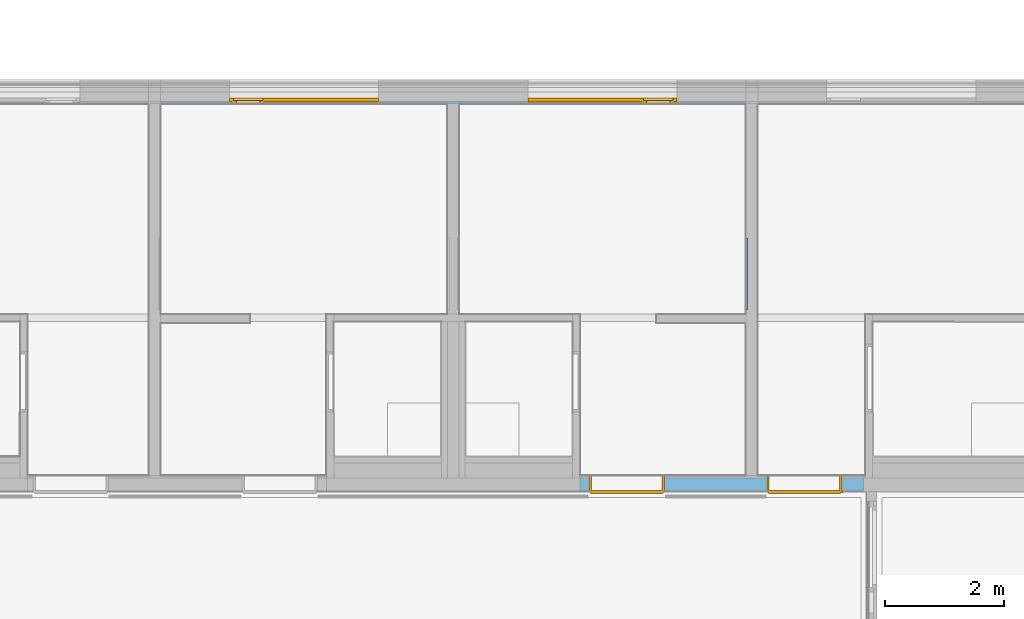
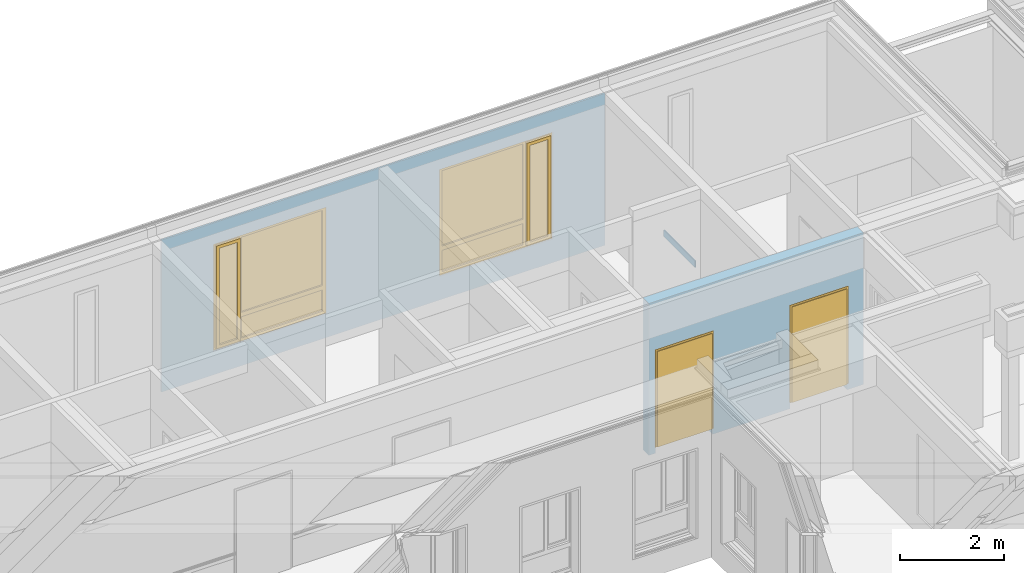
# One storey, part 104 of 222: 2 doors, 2 windows, 1 wall, 4 openings, plus 2 elements that do not belong to this part.
"""IFC4 building model written with IfcOpenShell, lengths in metres."""

from ifc_helpers import new_model, entity, si_unit, converted_unit, derived_unit, frame, frame_2d, origin, origin_with_axes, place, context, subcontext, project, spatial, polyline, rectangle, outline, extrude, closed_shell, open_shell, faceted_brep, surface_model, source, transform, mapped, material, type_object, element, fill, save


model = new_model("IFC4")

# Units and contexts
model_context = context("Model", 3, precision=1e-05, world=origin())
body_context = subcontext(model_context, "Body", "Model", "MODEL_VIEW")
ifc_project = project(units=[si_unit("LENGTHUNIT", "METRE"), si_unit("AREAUNIT", "SQUARE_METRE"), si_unit("VOLUMEUNIT", "CUBIC_METRE"), si_unit("MASSUNIT", "GRAM", prefix="KILO"), converted_unit("PLANEANGLEUNIT", "DEGREE", entity("IfcPlaneAngleMeasure", 0.0174532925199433), si_unit("PLANEANGLEUNIT", "RADIAN"), dimensions=[0, 0, 0, 0, 0, 0, 0]), derived_unit("THERMALTRANSMITTANCEUNIT", [(si_unit("POWERUNIT", "WATT"), 1), (si_unit("THERMODYNAMICTEMPERATUREUNIT", "KELVIN"), -1), (si_unit("LENGTHUNIT", "METRE"), -2)]), derived_unit("VOLUMETRICFLOWRATEUNIT", [(si_unit("LENGTHUNIT", "METRE"), 3), (converted_unit("TIMEUNIT", "hour", entity("IfcTimeMeasure", 3600.0), si_unit("TIMEUNIT", "SECOND"), dimensions=[0, 0, 1, 0, 0, 0, 0]), -1), (si_unit("LENGTHUNIT", "METRE"), -1)])], contexts=[model_context])

# Site, building, storey
site_placement = place(None, origin())
site = spatial("IfcSite", under=ifc_project, at=site_placement, Name="Psychiatrie Neubau Wunstorf", CompositionType="ELEMENT")
building_placement = place(site_placement, origin())
building = spatial("IfcBuilding", under=site, at=building_placement, Name="Neubau H2 Stationsgebäude", CompositionType="ELEMENT")
storey_placement = place(building_placement, frame((0.0, 0.0, 3.6)))
storey = spatial("IfcBuildingStorey", under=building, at=storey_placement, Name="H2 Ebene +1", CompositionType="ELEMENT", Elevation=3.6)

# Wall, openings, windows
ifc_material_1 = material(Name="WA-LB")
wall_1_placement = place(storey_placement, frame((20.1, 30.614, 0.0), z_axis=(0.0, 0.0, 1.0), x_axis=(1.0, -7.42444654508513e-16, 0.0)))
wall_1 = element("IfcWall", 1, at=wall_1_placement, inside=storey, material=ifc_material_1, context=body_context, shape_type="SweptSolid", body=[
    extrude(rectangle(XDim=9.8, YDim=0.036, at=frame_2d((4.9, 0.018), x_axis=(1.0, 0.0))), origin_with_axes(), (0.0, 0.0, 1.0), 3.55),
])
opening_1_placement = place(wall_1_placement, frame((1.15, 0.0, 0.55), z_axis=(0.0, 1.0, 0.0), x_axis=(0.0, 0.0, 1.0)))
opening_1 = element("IfcOpeningElement", 2, at=opening_1_placement, cuts=wall_1, Name="Fensteröffnung", ObjectType="Opening", context=body_context, shape_type="SweptSolid", body=[
    extrude(outline(polyline([(2.5, 2.5), (2.5, 0.0), (0.0, 0.0), (0.0, 2.5), (2.5, 2.5)])), origin_with_axes(), (0.0, 0.0, 1.0), 0.036),
])
opening_2_placement = place(wall_1_placement, frame((6.15, 0.0, 0.55), z_axis=(0.0, 1.0, 0.0), x_axis=(0.0, 0.0, 1.0)))
opening_2 = element("IfcOpeningElement", 3, at=opening_2_placement, cuts=wall_1, Name="Fensteröffnung", ObjectType="Opening", context=body_context, shape_type="SweptSolid", body=[
    extrude(outline(polyline([(2.5, 2.5), (2.5, 0.0), (0.0, 0.0), (0.0, 2.5), (2.5, 2.5)])), origin_with_axes(), (0.0, 0.0, 1.0), 0.036),
])
shared_shape_1 = source(origin_with_axes(), body_context, "Body", "SurfaceModel", [
    surface_model("IfcShellBasedSurfaceModel", [(0.0, 0.0, 2.5), (0.07, 0.0, 2.5), (0.07, 0.0, 0.0), (0.0, 0.0, 0.0), (0.0, 0.0699999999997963, 0.0), (0.07, 0.0699999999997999, 0.0), (0.07, 0.0699999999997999, 2.5), (0.0, 0.0699999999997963, 2.5)], [closed_shell([[[0, 1, 2, 3]], [[4, 5, 6, 7]], [[3, 4, 7, 0]], [[2, 5, 4, 3]], [[1, 6, 5, 2]], [[0, 7, 6, 1]]], orient=[[False], [False], [False], [False], [False], [False]])]),
    surface_model("IfcShellBasedSurfaceModel", [(2.43, 0.0, 2.5), (2.5, 0.0, 2.5), (2.5, 0.0, 0.0), (2.43, 0.0, 0.0), (2.43, 0.0699999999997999, 0.0), (2.5, 0.0699999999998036, 0.0), (2.5, 0.0699999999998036, 2.5), (2.43, 0.0699999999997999, 2.5)], [closed_shell([[[0, 1, 2, 3]], [[4, 5, 6, 7]], [[3, 4, 7, 0]], [[2, 5, 4, 3]], [[1, 6, 5, 2]], [[0, 7, 6, 1]]], orient=[[False], [False], [False], [False], [False], [False]])]),
    surface_model("IfcShellBasedSurfaceModel", [(0.07, 0.0, 0.07), (2.43, 0.0, 0.07), (2.43, 0.0, 0.0), (0.07, 0.0, 0.0), (0.07, 0.0699999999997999, 0.0), (2.43, 0.0699999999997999, 0.0), (2.43, 0.0699999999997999, 0.07), (0.07, 0.0699999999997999, 0.07)], [closed_shell([[[0, 1, 2, 3]], [[4, 5, 6, 7]], [[3, 4, 7, 0]], [[2, 5, 4, 3]], [[1, 6, 5, 2]], [[0, 7, 6, 1]]], orient=[[False], [False], [False], [False], [False], [False]])]),
    surface_model("IfcShellBasedSurfaceModel", [(0.07, 0.0, 2.5), (2.43, 0.0, 2.5), (2.43, 0.0, 2.43), (0.07, 0.0, 2.43), (0.07, 0.0699999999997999, 2.43), (2.43, 0.0699999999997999, 2.43), (2.43, 0.0699999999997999, 2.5), (0.07, 0.0699999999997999, 2.5)], [closed_shell([[[0, 1, 2, 3]], [[4, 5, 6, 7]], [[3, 4, 7, 0]], [[2, 5, 4, 3]], [[1, 6, 5, 2]], [[0, 7, 6, 1]]], orient=[[False], [False], [False], [False], [False], [False]])]),
    surface_model("IfcShellBasedSurfaceModel", [(0.565714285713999, 0.0, 2.43), (0.635714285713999, 0.0, 2.43), (0.635714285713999, 0.0, 0.07), (0.565714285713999, 0.0, 0.07), (0.565714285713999, 0.0699999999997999, 0.07), (0.635714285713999, 0.0699999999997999, 0.07), (0.635714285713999, 0.0699999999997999, 2.43), (0.565714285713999, 0.0699999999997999, 2.43)], [closed_shell([[[0, 1, 2, 3]], [[4, 5, 6, 7]], [[3, 4, 7, 0]], [[2, 5, 4, 3]], [[1, 6, 5, 2]], [[0, 7, 6, 1]]], orient=[[False], [False], [False], [False], [False], [False]])]),
    surface_model("IfcShellBasedSurfaceModel", [(0.05, -0.05, 2.45), (0.12, -0.05, 2.45), (0.12, -0.05, 0.05), (0.05, -0.05, 0.05), (0.05, 0.0199999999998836, 0.05), (0.12, 0.0199999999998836, 0.05), (0.12, 0.0199999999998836, 2.45), (0.05, 0.0199999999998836, 2.45)], [closed_shell([[[0, 1, 2, 3]], [[4, 5, 6, 7]], [[3, 4, 7, 0]], [[2, 5, 4, 3]], [[1, 6, 5, 2]], [[0, 7, 6, 1]]], orient=[[False], [False], [False], [False], [False], [False]])]),
    surface_model("IfcShellBasedSurfaceModel", [(0.515714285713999, -0.05, 2.45), (0.585714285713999, -0.05, 2.45), (0.585714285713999, -0.05, 0.05), (0.515714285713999, -0.05, 0.05), (0.515714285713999, 0.0199999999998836, 0.05), (0.585714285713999, 0.0199999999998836, 0.05), (0.585714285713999, 0.0199999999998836, 2.45), (0.515714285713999, 0.0199999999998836, 2.45)], [closed_shell([[[0, 1, 2, 3]], [[4, 5, 6, 7]], [[3, 4, 7, 0]], [[2, 5, 4, 3]], [[1, 6, 5, 2]], [[0, 7, 6, 1]]], orient=[[False], [False], [False], [False], [False], [False]])]),
    surface_model("IfcShellBasedSurfaceModel", [(0.12, -0.05, 0.12), (0.515714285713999, -0.05, 0.12), (0.515714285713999, -0.05, 0.05), (0.12, -0.05, 0.05), (0.12, 0.0199999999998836, 0.05), (0.515714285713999, 0.0199999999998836, 0.05), (0.515714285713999, 0.0199999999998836, 0.12), (0.12, 0.0199999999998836, 0.12)], [closed_shell([[[0, 1, 2, 3]], [[4, 5, 6, 7]], [[3, 4, 7, 0]], [[2, 5, 4, 3]], [[1, 6, 5, 2]], [[0, 7, 6, 1]]], orient=[[False], [False], [False], [False], [False], [False]])]),
    surface_model("IfcShellBasedSurfaceModel", [(0.12, -0.05, 2.45), (0.515714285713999, -0.05, 2.45), (0.515714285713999, -0.05, 2.38), (0.12, -0.05, 2.38), (0.12, 0.0199999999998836, 2.38), (0.515714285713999, 0.0199999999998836, 2.38), (0.515714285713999, 0.0199999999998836, 2.45), (0.12, 0.0199999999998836, 2.45)], [closed_shell([[[0, 1, 2, 3]], [[4, 5, 6, 7]], [[3, 4, 7, 0]], [[2, 5, 4, 3]], [[1, 6, 5, 2]], [[0, 7, 6, 1]]], orient=[[False], [False], [False], [False], [False], [False]])]),
    surface_model("IfcShellBasedSurfaceModel", [(0.635714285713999, 0.0, 0.67), (2.43, 0.0, 0.67), (2.43, 0.0, 0.57), (0.635714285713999, 0.0, 0.57), (0.635714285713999, 0.0699999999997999, 0.57), (2.43, 0.0699999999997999, 0.57), (2.43, 0.0699999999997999, 0.67), (0.635714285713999, 0.0699999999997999, 0.67)], [closed_shell([[[0, 1, 2, 3]], [[4, 5, 6, 7]], [[3, 4, 7, 0]], [[2, 5, 4, 3]], [[1, 6, 5, 2]], [[0, 7, 6, 1]]], orient=[[False], [False], [False], [False], [False], [False]])]),
    surface_model("IfcShellBasedSurfaceModel", [(0.12, -0.0150000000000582, 0.12), (0.12, -0.0150000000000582, 2.38), (0.515714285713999, -0.0150000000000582, 2.38), (0.515714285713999, -0.0150000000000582, 0.12)], [open_shell([[[0, 1, 2, 3]]], orient=[[False]])]),
    surface_model("IfcShellBasedSurfaceModel", [(0.635714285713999, 0.0349999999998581, 0.07), (0.635714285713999, 0.0349999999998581, 0.57), (2.43, 0.0349999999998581, 0.57), (2.43, 0.0349999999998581, 0.07)], [open_shell([[[0, 1, 2, 3]]], orient=[[False]])]),
    surface_model("IfcShellBasedSurfaceModel", [(0.635714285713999, 0.0349999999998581, 0.67), (0.635714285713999, 0.0349999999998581, 2.43), (2.43, 0.0349999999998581, 2.43), (2.43, 0.0349999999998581, 0.67)], [open_shell([[[0, 1, 2, 3]]], orient=[[False]])]),
])
window_1_placement = place(opening_1_placement, frame((0.0, 0.0, 0.03), z_axis=(1.0, 0.0, 0.0), x_axis=(0.0, 1.0, -7.12746868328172e-16)))
window_1 = element("IfcWindow", 4, at=window_1_placement, inside=storey, Name="Fenster", OverallHeight=2.5, OverallWidth=2.5, PartitioningType="USERDEFINED", PredefinedType="WINDOW", context=body_context, shape_type="MappedRepresentation", body=[
    mapped(shared_shape_1, transform((0.0, 0.0, 0.0), x_axis=(1.0, 0.0, 0.0), y_axis=(0.0, 1.0, 0.0), z_axis=(0.0, 0.0, 1.0), scale=1.0)),
])
fill(opening_1, window_1)
shared_shape_2 = source(origin_with_axes(), body_context, "Body", "SurfaceModel", [
    surface_model("IfcShellBasedSurfaceModel", [(2.5, 0.0, 2.5), (2.5, 0.0, 0.0), (2.43, 0.0, 0.0), (2.43, 0.0, 2.5), (2.5, 0.0699999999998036, 0.0), (2.5, 0.0699999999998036, 2.5), (2.43, 0.0699999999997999, 2.5), (2.43, 0.0699999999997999, 0.0)], [closed_shell([[[0, 1, 2, 3]], [[4, 5, 6, 7]], [[1, 0, 5, 4]], [[2, 1, 4, 7]], [[3, 2, 7, 6]], [[0, 3, 6, 5]]], orient=[[False], [False], [False], [False], [False], [False]])]),
    surface_model("IfcShellBasedSurfaceModel", [(0.07, 0.0, 2.5), (0.07, 0.0, 0.0), (0.0, 0.0, 0.0), (0.0, 0.0, 2.5), (0.07, 0.0699999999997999, 0.0), (0.07, 0.0699999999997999, 2.5), (0.0, 0.0699999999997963, 2.5), (0.0, 0.0699999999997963, 0.0)], [closed_shell([[[0, 1, 2, 3]], [[4, 5, 6, 7]], [[1, 0, 5, 4]], [[2, 1, 4, 7]], [[3, 2, 7, 6]], [[0, 3, 6, 5]]], orient=[[False], [False], [False], [False], [False], [False]])]),
    surface_model("IfcShellBasedSurfaceModel", [(2.43, 0.0, 0.07), (2.43, 0.0, 0.0), (0.07, 0.0, 0.0), (0.07, 0.0, 0.07), (2.43, 0.0699999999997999, 0.0), (2.43, 0.0699999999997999, 0.07), (0.07, 0.0699999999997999, 0.07), (0.07, 0.0699999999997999, 0.0)], [closed_shell([[[0, 1, 2, 3]], [[4, 5, 6, 7]], [[1, 0, 5, 4]], [[2, 1, 4, 7]], [[3, 2, 7, 6]], [[0, 3, 6, 5]]], orient=[[False], [False], [False], [False], [False], [False]])]),
    surface_model("IfcShellBasedSurfaceModel", [(2.43, 0.0, 2.5), (2.43, 0.0, 2.43), (0.07, 0.0, 2.43), (0.07, 0.0, 2.5), (2.43, 0.0699999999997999, 2.43), (2.43, 0.0699999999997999, 2.5), (0.07, 0.0699999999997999, 2.5), (0.07, 0.0699999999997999, 2.43)], [closed_shell([[[0, 1, 2, 3]], [[4, 5, 6, 7]], [[1, 0, 5, 4]], [[2, 1, 4, 7]], [[3, 2, 7, 6]], [[0, 3, 6, 5]]], orient=[[False], [False], [False], [False], [False], [False]])]),
    surface_model("IfcShellBasedSurfaceModel", [(1.934285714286, 0.0, 2.43), (1.934285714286, 0.0, 0.07), (1.864285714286, 0.0, 0.07), (1.864285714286, 0.0, 2.43), (1.934285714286, 0.0699999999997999, 0.07), (1.934285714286, 0.0699999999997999, 2.43), (1.864285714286, 0.0699999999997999, 2.43), (1.864285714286, 0.0699999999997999, 0.07)], [closed_shell([[[0, 1, 2, 3]], [[4, 5, 6, 7]], [[1, 0, 5, 4]], [[2, 1, 4, 7]], [[3, 2, 7, 6]], [[0, 3, 6, 5]]], orient=[[False], [False], [False], [False], [False], [False]])]),
    surface_model("IfcShellBasedSurfaceModel", [(2.45, -0.0500000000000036, 2.45), (2.45, -0.0500000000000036, 0.05), (2.38, -0.0500000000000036, 0.05), (2.38, -0.0500000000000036, 2.45), (2.45, 0.0199999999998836, 0.05), (2.45, 0.0199999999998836, 2.45), (2.38, 0.0199999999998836, 2.45), (2.38, 0.0199999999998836, 0.05)], [closed_shell([[[0, 1, 2, 3]], [[4, 5, 6, 7]], [[1, 0, 5, 4]], [[2, 1, 4, 7]], [[3, 2, 7, 6]], [[0, 3, 6, 5]]], orient=[[False], [False], [False], [False], [False], [False]])]),
    surface_model("IfcShellBasedSurfaceModel", [(1.984285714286, -0.0500000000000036, 2.45), (1.984285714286, -0.0500000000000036, 0.05), (1.914285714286, -0.0500000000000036, 0.05), (1.914285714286, -0.0500000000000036, 2.45), (1.984285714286, 0.0199999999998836, 0.05), (1.984285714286, 0.0199999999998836, 2.45), (1.914285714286, 0.0199999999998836, 2.45), (1.914285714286, 0.0199999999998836, 0.05)], [closed_shell([[[0, 1, 2, 3]], [[4, 5, 6, 7]], [[1, 0, 5, 4]], [[2, 1, 4, 7]], [[3, 2, 7, 6]], [[0, 3, 6, 5]]], orient=[[False], [False], [False], [False], [False], [False]])]),
    surface_model("IfcShellBasedSurfaceModel", [(2.38, -0.0500000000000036, 0.12), (2.38, -0.0500000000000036, 0.05), (1.984285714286, -0.0500000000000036, 0.05), (1.984285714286, -0.0500000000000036, 0.12), (2.38, 0.0199999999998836, 0.05), (2.38, 0.0199999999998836, 0.12), (1.984285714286, 0.0199999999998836, 0.12), (1.984285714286, 0.0199999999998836, 0.05)], [closed_shell([[[0, 1, 2, 3]], [[4, 5, 6, 7]], [[1, 0, 5, 4]], [[2, 1, 4, 7]], [[3, 2, 7, 6]], [[0, 3, 6, 5]]], orient=[[False], [False], [False], [False], [False], [False]])]),
    surface_model("IfcShellBasedSurfaceModel", [(2.38, -0.0500000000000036, 2.45), (2.38, -0.0500000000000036, 2.38), (1.984285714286, -0.0500000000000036, 2.38), (1.984285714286, -0.0500000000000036, 2.45), (2.38, 0.0199999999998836, 2.38), (2.38, 0.0199999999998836, 2.45), (1.984285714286, 0.0199999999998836, 2.45), (1.984285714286, 0.0199999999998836, 2.38)], [closed_shell([[[0, 1, 2, 3]], [[4, 5, 6, 7]], [[1, 0, 5, 4]], [[2, 1, 4, 7]], [[3, 2, 7, 6]], [[0, 3, 6, 5]]], orient=[[False], [False], [False], [False], [False], [False]])]),
    surface_model("IfcShellBasedSurfaceModel", [(1.864285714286, 0.0, 0.67), (1.864285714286, 0.0, 0.57), (0.07, 0.0, 0.57), (0.07, 0.0, 0.67), (1.864285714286, 0.0699999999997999, 0.57), (1.864285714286, 0.0699999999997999, 0.67), (0.07, 0.0699999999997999, 0.67), (0.07, 0.0699999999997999, 0.57)], [closed_shell([[[0, 1, 2, 3]], [[4, 5, 6, 7]], [[1, 0, 5, 4]], [[2, 1, 4, 7]], [[3, 2, 7, 6]], [[0, 3, 6, 5]]], orient=[[False], [False], [False], [False], [False], [False]])]),
    surface_model("IfcShellBasedSurfaceModel", [(2.38, -0.0150000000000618, 0.12), (1.984285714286, -0.0150000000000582, 0.12), (1.984285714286, -0.0150000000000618, 2.38), (2.38, -0.0150000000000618, 2.38)], [open_shell([[[0, 1, 2, 3]]], orient=[[False]])]),
    surface_model("IfcShellBasedSurfaceModel", [(1.864285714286, 0.0349999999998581, 0.07), (0.07, 0.0349999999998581, 0.07), (0.07, 0.0349999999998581, 0.57), (1.864285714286, 0.0349999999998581, 0.57)], [open_shell([[[0, 1, 2, 3]]], orient=[[False]])]),
    surface_model("IfcShellBasedSurfaceModel", [(1.864285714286, 0.0349999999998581, 0.67), (0.07, 0.0349999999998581, 0.67), (0.07, 0.0349999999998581, 2.43), (1.864285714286, 0.0349999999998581, 2.43)], [open_shell([[[0, 1, 2, 3]]], orient=[[False]])]),
])
window_2_placement = place(opening_2_placement, frame((0.0, 0.0, 0.03), z_axis=(1.0, 0.0, 0.0), x_axis=(0.0, 1.0, -7.12746868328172e-16)))
window_2 = element("IfcWindow", 5, at=window_2_placement, inside=storey, Name="Fenster", OverallHeight=2.5, OverallWidth=2.5, PartitioningType="USERDEFINED", PredefinedType="WINDOW", context=body_context, shape_type="MappedRepresentation", body=[
    mapped(shared_shape_2, transform((0.0, 0.0, 0.0), x_axis=(1.0, 0.0, 0.0), y_axis=(0.0, 1.0, 0.0), z_axis=(0.0, 0.0, 1.0), scale=1.0)),
])
fill(opening_2, window_2)

# Wall, openings, doors
ifc_material_2 = material(Name="WI-HW 60")
wall_2_placement = place(storey_placement, frame((27.125, 24.1175, 0.0)))
wall_2 = element("IfcWall", 6, at=wall_2_placement, inside=storey, material=ifc_material_2, context=body_context, shape_type="SweptSolid", body=[
    extrude(rectangle(XDim=4.743, YDim=0.232, at=frame_2d((2.3715, 0.116), x_axis=(1.0, 0.0))), origin_with_axes(), (0.0, 0.0, 1.0), 3.55),
])
opening_3_placement = place(wall_2_placement, frame((3.125, 0.0, 0.0), z_axis=(0.0, 1.0, 0.0), x_axis=(0.0, 0.0, 1.0)))
opening_3 = element("IfcOpeningElement", 7, at=opening_3_placement, cuts=wall_2, Name="Türöffnung", ObjectType="Opening", context=body_context, shape_type="SweptSolid", body=[
    extrude(outline(polyline([(2.41, 1.26), (2.41, 0.0), (0.0, 0.0), (0.0, 1.26), (2.41, 1.26)])), origin_with_axes(), (0.0, 0.0, 1.0), 0.232),
])
opening_4_placement = place(wall_2_placement, frame((0.15, 0.0, 0.0), z_axis=(0.0, 1.0, 0.0), x_axis=(0.0, 0.0, 1.0)))
opening_4 = element("IfcOpeningElement", 8, at=opening_4_placement, cuts=wall_2, Name="Türöffnung", ObjectType="Opening", context=body_context, shape_type="SweptSolid", body=[
    extrude(outline(polyline([(2.41, 1.26), (2.41, 0.0), (0.0, 0.0), (0.0, 1.26), (2.41, 1.26)])), origin_with_axes(), (0.0, 0.0, 1.0), 0.232),
])
ifc_material_3 = material(Name="TI-2F-UZ-D")
door_type_1 = type_object("IfcDoorType", Name="SMT", OperationType="DOUBLE_DOOR_SINGLE_SWING", ParameterTakesPrecedence=False, PredefinedType="DOOR")
shared_shape_3 = source(origin_with_axes(), body_context, "Body", "Brep", [
    faceted_brep([(1.26, -0.0150000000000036, 2.41), (1.26, -0.0150000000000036, 0.15), (1.22, -0.0150000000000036, 0.15), (1.22, -0.0150000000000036, 2.41), (1.26, 0.286999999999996, 0.15), (1.26, 0.286999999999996, 2.41), (1.22, 0.286999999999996, 2.41), (1.22, 0.286999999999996, 0.15)], [[[0, 1, 2, 3]], [[4, 5, 6, 7]], [[1, 0, 5, 4]], [[2, 1, 4, 7]], [[3, 2, 7, 6]], [[0, 3, 6, 5]]], orient=[[False], [False], [False], [False], [False], [False]]),
    faceted_brep([(1.26, -0.0150000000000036, 2.425), (1.275, -0.0150000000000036, 2.425), (1.275, -0.0150000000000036, 0.15), (1.26, -0.0150000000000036, 0.15), (1.26, 0.0, 0.15), (1.275, 0.0, 0.15), (1.275, 0.0, 2.425), (1.26, 0.0, 2.425)], [[[0, 1, 2, 3]], [[4, 5, 6, 7]], [[3, 4, 7, 0]], [[2, 5, 4, 3]], [[1, 6, 5, 2]], [[0, 7, 6, 1]]], orient=[[False], [False], [False], [False], [False], [False]]),
    faceted_brep([(1.26, 0.271999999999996, 2.425), (1.275, 0.271999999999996, 2.425), (1.275, 0.271999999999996, 0.15), (1.26, 0.271999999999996, 0.15), (1.26, 0.286999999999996, 0.15), (1.275, 0.286999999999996, 0.15), (1.275, 0.286999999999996, 2.425), (1.26, 0.286999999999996, 2.425)], [[[0, 1, 2, 3]], [[4, 5, 6, 7]], [[3, 4, 7, 0]], [[2, 5, 4, 3]], [[1, 6, 5, 2]], [[0, 7, 6, 1]]], orient=[[False], [False], [False], [False], [False], [False]]),
    faceted_brep([(0.04, -0.0150000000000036, 2.41), (0.04, -0.0150000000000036, 0.15), (0.0, -0.0150000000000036, 0.15), (0.0, -0.0150000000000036, 2.41), (0.04, 0.286999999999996, 0.15), (0.04, 0.286999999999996, 2.41), (0.0, 0.286999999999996, 2.41), (0.0, 0.286999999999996, 0.15)], [[[0, 1, 2, 3]], [[4, 5, 6, 7]], [[1, 0, 5, 4]], [[2, 1, 4, 7]], [[3, 2, 7, 6]], [[0, 3, 6, 5]]], orient=[[False], [False], [False], [False], [False], [False]]),
    faceted_brep([(0.0, -0.0150000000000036, 2.425), (0.0, -0.0150000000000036, 0.15), (-0.015, -0.0150000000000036, 0.15), (-0.015, -0.0150000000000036, 2.425), (0.0, 0.0, 0.15), (0.0, 0.0, 2.425), (-0.015, 0.0, 2.425), (-0.015, 0.0, 0.15)], [[[0, 1, 2, 3]], [[4, 5, 6, 7]], [[1, 0, 5, 4]], [[2, 1, 4, 7]], [[3, 2, 7, 6]], [[0, 3, 6, 5]]], orient=[[False], [False], [False], [False], [False], [False]]),
    faceted_brep([(0.0, 0.271999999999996, 2.425), (0.0, 0.271999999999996, 0.15), (-0.015, 0.271999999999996, 0.15), (-0.015, 0.271999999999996, 2.425), (0.0, 0.286999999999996, 0.15), (0.0, 0.286999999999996, 2.425), (-0.015, 0.286999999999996, 2.425), (-0.015, 0.286999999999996, 0.15)], [[[0, 1, 2, 3]], [[4, 5, 6, 7]], [[1, 0, 5, 4]], [[2, 1, 4, 7]], [[3, 2, 7, 6]], [[0, 3, 6, 5]]], orient=[[False], [False], [False], [False], [False], [False]]),
    faceted_brep([(1.22, -0.0150000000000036, 2.41), (1.22, -0.0150000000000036, 2.37), (0.04, -0.0150000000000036, 2.37), (0.04, -0.0150000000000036, 2.41), (1.22, 0.286999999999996, 2.37), (1.22, 0.286999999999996, 2.41), (0.04, 0.286999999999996, 2.41), (0.04, 0.286999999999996, 2.37)], [[[0, 1, 2, 3]], [[4, 5, 6, 7]], [[1, 0, 5, 4]], [[2, 1, 4, 7]], [[3, 2, 7, 6]], [[0, 3, 6, 5]]], orient=[[False], [False], [False], [False], [False], [False]]),
    faceted_brep([(1.26, -0.0150000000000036, 2.425), (1.26, -0.0150000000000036, 2.41), (0.0, -0.0150000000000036, 2.41), (0.0, -0.0150000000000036, 2.425), (1.26, 0.0, 2.41), (1.26, 0.0, 2.425), (0.0, 0.0, 2.425), (0.0, 0.0, 2.41)], [[[0, 1, 2, 3]], [[4, 5, 6, 7]], [[1, 0, 5, 4]], [[2, 1, 4, 7]], [[3, 2, 7, 6]], [[0, 3, 6, 5]]], orient=[[False], [False], [False], [False], [False], [False]]),
    faceted_brep([(1.26, 0.271999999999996, 2.425), (1.26, 0.271999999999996, 2.41), (0.0, 0.271999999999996, 2.41), (0.0, 0.271999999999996, 2.425), (1.26, 0.286999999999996, 2.41), (1.26, 0.286999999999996, 2.425), (0.0, 0.286999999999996, 2.425), (0.0, 0.286999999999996, 2.41)], [[[0, 1, 2, 3]], [[4, 5, 6, 7]], [[1, 0, 5, 4]], [[2, 1, 4, 7]], [[3, 2, 7, 6]], [[0, 3, 6, 5]]], orient=[[False], [False], [False], [False], [False], [False]]),
    faceted_brep([(1.235, 0.251999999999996, 2.385), (1.235, 0.251999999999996, 0.15), (0.335, 0.251999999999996, 0.15), (0.335, 0.251999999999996, 2.385), (1.235, 0.301999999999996, 0.15), (1.235, 0.301999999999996, 2.385), (0.335, 0.301999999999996, 2.385), (0.335, 0.301999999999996, 0.15)], [[[0, 1, 2, 3]], [[4, 5, 6, 7]], [[1, 0, 5, 4]], [[2, 1, 4, 7]], [[3, 2, 7, 6]], [[0, 3, 6, 5]]], orient=[[False], [False], [False], [False], [False], [False]]),
    faceted_brep([(0.334, 0.251999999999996, 2.385), (0.334, 0.251999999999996, 0.15), (0.025, 0.251999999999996, 0.15), (0.025, 0.251999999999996, 2.385), (0.334, 0.301999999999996, 0.15), (0.334, 0.301999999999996, 2.385), (0.025, 0.301999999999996, 2.385), (0.025, 0.301999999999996, 0.15)], [[[0, 1, 2, 3]], [[4, 5, 6, 7]], [[1, 0, 5, 4]], [[2, 1, 4, 7]], [[3, 2, 7, 6]], [[0, 3, 6, 5]]], orient=[[False], [False], [False], [False], [False], [False]]),
])
door_1_placement = place(opening_3_placement, frame((0.0, 1.26, 0.271999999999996), z_axis=(1.0, 0.0, 0.0), x_axis=(0.0, -1.0, 0.0)))
door_1 = element("IfcDoor", 9, at=door_1_placement, inside=storey, type_object=door_type_1, material=ifc_material_3, Name="SMT", OverallHeight=2.41, OverallWidth=1.26, context=body_context, shape_type="MappedRepresentation", body=[
    mapped(shared_shape_3, transform((0.0, 0.0, 0.0), x_axis=(1.0, 0.0, 0.0), y_axis=(0.0, 1.0, 0.0), z_axis=(0.0, 0.0, 1.0), scale=1.0)),
])
fill(opening_3, door_1)
ifc_material_4 = material(Name="TI-2F-UZ-D")
door_type_2 = type_object("IfcDoorType", Name="SMT", OperationType="DOUBLE_DOOR_SINGLE_SWING", ParameterTakesPrecedence=False, PredefinedType="DOOR")
shared_shape_4 = source(origin_with_axes(), body_context, "Body", "Brep", [
    faceted_brep([(0.0, -0.0150000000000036, 2.41), (0.04, -0.0150000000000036, 2.41), (0.04, -0.0150000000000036, 0.15), (0.0, -0.0150000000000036, 0.15), (0.0, 0.286999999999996, 0.15), (0.04, 0.286999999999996, 0.15), (0.04, 0.286999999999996, 2.41), (0.0, 0.286999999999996, 2.41)], [[[0, 1, 2, 3]], [[4, 5, 6, 7]], [[3, 4, 7, 0]], [[2, 5, 4, 3]], [[1, 6, 5, 2]], [[0, 7, 6, 1]]], orient=[[False], [False], [False], [False], [False], [False]]),
    faceted_brep([(0.0, -0.0150000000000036, 2.425), (0.0, -0.0150000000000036, 0.15), (-0.015, -0.0150000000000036, 0.15), (-0.015, -0.0150000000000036, 2.425), (0.0, 0.0, 0.15), (0.0, 0.0, 2.425), (-0.015, 0.0, 2.425), (-0.015, 0.0, 0.15)], [[[0, 1, 2, 3]], [[4, 5, 6, 7]], [[1, 0, 5, 4]], [[2, 1, 4, 7]], [[3, 2, 7, 6]], [[0, 3, 6, 5]]], orient=[[False], [False], [False], [False], [False], [False]]),
    faceted_brep([(0.0, 0.271999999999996, 2.425), (0.0, 0.271999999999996, 0.15), (-0.015, 0.271999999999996, 0.15), (-0.015, 0.271999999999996, 2.425), (0.0, 0.286999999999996, 0.15), (0.0, 0.286999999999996, 2.425), (-0.015, 0.286999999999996, 2.425), (-0.015, 0.286999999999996, 0.15)], [[[0, 1, 2, 3]], [[4, 5, 6, 7]], [[1, 0, 5, 4]], [[2, 1, 4, 7]], [[3, 2, 7, 6]], [[0, 3, 6, 5]]], orient=[[False], [False], [False], [False], [False], [False]]),
    faceted_brep([(1.22, -0.0150000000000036, 2.41), (1.26, -0.0150000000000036, 2.41), (1.26, -0.0150000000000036, 0.15), (1.22, -0.0150000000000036, 0.15), (1.22, 0.286999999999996, 0.15), (1.26, 0.286999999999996, 0.15), (1.26, 0.286999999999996, 2.41), (1.22, 0.286999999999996, 2.41)], [[[0, 1, 2, 3]], [[4, 5, 6, 7]], [[3, 4, 7, 0]], [[2, 5, 4, 3]], [[1, 6, 5, 2]], [[0, 7, 6, 1]]], orient=[[False], [False], [False], [False], [False], [False]]),
    faceted_brep([(1.26, -0.0150000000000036, 2.425), (1.275, -0.0150000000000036, 2.425), (1.275, -0.0150000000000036, 0.15), (1.26, -0.0150000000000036, 0.15), (1.26, 0.0, 0.15), (1.275, 0.0, 0.15), (1.275, 0.0, 2.425), (1.26, 0.0, 2.425)], [[[0, 1, 2, 3]], [[4, 5, 6, 7]], [[3, 4, 7, 0]], [[2, 5, 4, 3]], [[1, 6, 5, 2]], [[0, 7, 6, 1]]], orient=[[False], [False], [False], [False], [False], [False]]),
    faceted_brep([(1.26, 0.271999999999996, 2.425), (1.275, 0.271999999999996, 2.425), (1.275, 0.271999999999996, 0.15), (1.26, 0.271999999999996, 0.15), (1.26, 0.286999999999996, 0.15), (1.275, 0.286999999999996, 0.15), (1.275, 0.286999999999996, 2.425), (1.26, 0.286999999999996, 2.425)], [[[0, 1, 2, 3]], [[4, 5, 6, 7]], [[3, 4, 7, 0]], [[2, 5, 4, 3]], [[1, 6, 5, 2]], [[0, 7, 6, 1]]], orient=[[False], [False], [False], [False], [False], [False]]),
    faceted_brep([(0.04, -0.0150000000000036, 2.41), (1.22, -0.0150000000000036, 2.41), (1.22, -0.0150000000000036, 2.37), (0.04, -0.0150000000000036, 2.37), (0.04, 0.286999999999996, 2.37), (1.22, 0.286999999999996, 2.37), (1.22, 0.286999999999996, 2.41), (0.04, 0.286999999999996, 2.41)], [[[0, 1, 2, 3]], [[4, 5, 6, 7]], [[3, 4, 7, 0]], [[2, 5, 4, 3]], [[1, 6, 5, 2]], [[0, 7, 6, 1]]], orient=[[False], [False], [False], [False], [False], [False]]),
    faceted_brep([(0.0, -0.0150000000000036, 2.425), (1.26, -0.0150000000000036, 2.425), (1.26, -0.0150000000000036, 2.41), (0.0, -0.0150000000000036, 2.41), (0.0, 0.0, 2.41), (1.26, 0.0, 2.41), (1.26, 0.0, 2.425), (0.0, 0.0, 2.425)], [[[0, 1, 2, 3]], [[4, 5, 6, 7]], [[3, 4, 7, 0]], [[2, 5, 4, 3]], [[1, 6, 5, 2]], [[0, 7, 6, 1]]], orient=[[False], [False], [False], [False], [False], [False]]),
    faceted_brep([(0.0, 0.271999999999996, 2.425), (1.26, 0.271999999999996, 2.425), (1.26, 0.271999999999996, 2.41), (0.0, 0.271999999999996, 2.41), (0.0, 0.286999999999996, 2.41), (1.26, 0.286999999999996, 2.41), (1.26, 0.286999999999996, 2.425), (0.0, 0.286999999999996, 2.425)], [[[0, 1, 2, 3]], [[4, 5, 6, 7]], [[3, 4, 7, 0]], [[2, 5, 4, 3]], [[1, 6, 5, 2]], [[0, 7, 6, 1]]], orient=[[False], [False], [False], [False], [False], [False]]),
    faceted_brep([(0.025, 0.251999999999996, 2.385), (0.925, 0.251999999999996, 2.385), (0.925, 0.251999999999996, 0.15), (0.025, 0.251999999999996, 0.15), (0.025, 0.301999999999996, 0.15), (0.925, 0.301999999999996, 0.15), (0.925, 0.301999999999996, 2.385), (0.025, 0.301999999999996, 2.385)], [[[0, 1, 2, 3]], [[4, 5, 6, 7]], [[3, 4, 7, 0]], [[2, 5, 4, 3]], [[1, 6, 5, 2]], [[0, 7, 6, 1]]], orient=[[False], [False], [False], [False], [False], [False]]),
    faceted_brep([(0.926, 0.251999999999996, 2.385), (1.235, 0.251999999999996, 2.385), (1.235, 0.251999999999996, 0.15), (0.926, 0.251999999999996, 0.15), (0.926, 0.301999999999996, 0.15), (1.235, 0.301999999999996, 0.15), (1.235, 0.301999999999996, 2.385), (0.926, 0.301999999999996, 2.385)], [[[0, 1, 2, 3]], [[4, 5, 6, 7]], [[3, 4, 7, 0]], [[2, 5, 4, 3]], [[1, 6, 5, 2]], [[0, 7, 6, 1]]], orient=[[False], [False], [False], [False], [False], [False]]),
])
door_2_placement = place(opening_4_placement, frame((0.0, 1.26, 0.271999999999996), z_axis=(1.0, 0.0, 0.0), x_axis=(0.0, -1.0, 0.0)))
door_2 = element("IfcDoor", 10, at=door_2_placement, inside=storey, type_object=door_type_2, material=ifc_material_4, Name="SMT", OverallHeight=2.41, OverallWidth=1.26, context=body_context, shape_type="MappedRepresentation", body=[
    mapped(shared_shape_4, transform((0.0, 0.0, 0.0), x_axis=(1.0, 0.0, 0.0), y_axis=(0.0, 1.0, 0.0), z_axis=(0.0, 0.0, 1.0), scale=1.0)),
])
fill(opening_4, door_2)

# Wall
wall_3_placement = place(storey_placement, frame((29.9, 27.1628367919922, 1.575)))
element("IfcWall", 11, at=wall_3_placement, inside=storey, Name="WV 1.1", context=body_context, shape_type="Brep", body=[
    faceted_brep([(0.025, 1.2, 0.0), (0.0, 1.2, 0.0), (0.0, 0.0, 0.0), (0.025, 0.0, 0.0), (0.0, 1.2, 0.15), (0.025, 1.2, 0.15), (0.025, 0.0, 0.15), (0.0, 0.0, 0.15)], [[[0, 1, 2, 3]], [[4, 5, 6, 7]], [[1, 0, 5, 4]], [[2, 1, 4, 7]], [[3, 2, 7, 6]], [[0, 3, 6, 5]]], orient=[[False], [False], [False], [False], [False], [False]]),
])

save(model, "model.ifc")
